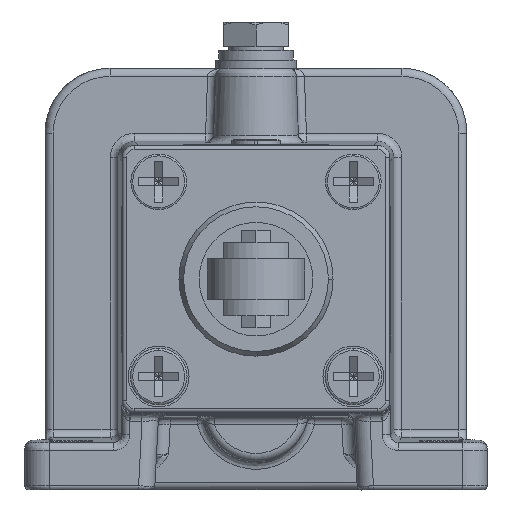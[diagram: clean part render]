
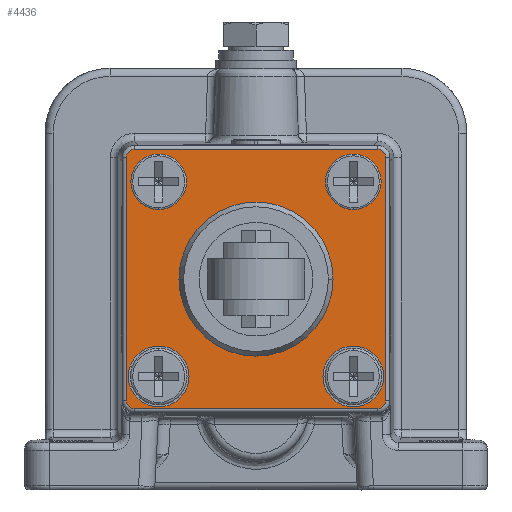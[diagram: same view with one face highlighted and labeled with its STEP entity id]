
A CAD part, left-side view. The second image highlights one B-rep face of the part: STEP entity #4436.
In plain terms, the highlighted planar face has unit normal (-1, 0, 0).
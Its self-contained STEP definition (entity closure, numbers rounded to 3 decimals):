
#1562=CARTESIAN_POINT('',(-70.603,-12.,8.575));
#1563=VERTEX_POINT('',#1562);
#1570=CARTESIAN_POINT('',(-70.603,-12.,15.425));
#1571=VERTEX_POINT('',#1570);
#1572=CARTESIAN_POINT('',(-70.603,-12.,12.));
#1573=DIRECTION('',(1.0,0.0,0.0));
#1574=DIRECTION('',(0.0,0.0,1.0));
#1575=AXIS2_PLACEMENT_3D('',#1572,#1573,#1574);
#1576=CIRCLE('',#1575,3.425);
#1577=EDGE_CURVE('',#1571,#1563,#1576,.T.);
#3075=CARTESIAN_POINT('',(-70.603,12.,8.575));
#3076=VERTEX_POINT('',#3075);
#3083=CARTESIAN_POINT('',(-70.603,12.,15.425));
#3084=VERTEX_POINT('',#3083);
#3085=CARTESIAN_POINT('',(-70.603,12.,12.));
#3086=DIRECTION('',(-1.0,0.0,0.0));
#3087=DIRECTION('',(0.0,0.0,-1.0));
#3088=AXIS2_PLACEMENT_3D('',#3085,#3086,#3087);
#3089=CIRCLE('',#3088,3.425);
#3090=EDGE_CURVE('',#3076,#3084,#3089,.T.);
#4068=CARTESIAN_POINT('',(-70.603,16.,-15.));
#4069=VERTEX_POINT('',#4068);
#4077=CARTESIAN_POINT('',(-70.603,16.,15.));
#4078=VERTEX_POINT('',#4077);
#4079=CARTESIAN_POINT('',(-70.603,16.,-15.));
#4080=DIRECTION('',(0.0,0.0,1.0));
#4081=VECTOR('',#4080,30.0);
#4082=LINE('',#4079,#4081);
#4083=EDGE_CURVE('',#4069,#4078,#4082,.T.);
#4102=CARTESIAN_POINT('',(-70.603,15.,16.));
#4103=VERTEX_POINT('',#4102);
#4104=CARTESIAN_POINT('',(-70.603,15.,15.));
#4105=DIRECTION('',(1.0,0.0,0.0));
#4106=DIRECTION('',(0.0,1.0,0.0));
#4107=AXIS2_PLACEMENT_3D('',#4104,#4105,#4106);
#4108=CIRCLE('',#4107,1.);
#4109=EDGE_CURVE('',#4078,#4103,#4108,.T.);
#4281=CARTESIAN_POINT('',(-70.603,-12.,-8.25));
#4282=VERTEX_POINT('',#4281);
#4290=CARTESIAN_POINT('',(-70.603,-12.,-15.75));
#4291=VERTEX_POINT('',#4290);
#4298=CARTESIAN_POINT('',(-70.603,-12.,-12.));
#4299=DIRECTION('',(1.0,0.0,0.0));
#4300=DIRECTION('',(0.0,0.0,1.0));
#4301=AXIS2_PLACEMENT_3D('',#4298,#4299,#4300);
#4302=CIRCLE('',#4301,3.75);
#4303=EDGE_CURVE('',#4282,#4291,#4302,.T.);
#4308=CARTESIAN_POINT('',(-70.603,16.5,16.5));
#4309=DIRECTION('',(-1.0,0.0,0.0));
#4310=DIRECTION('',(0.0,1.0,0.0));
#4311=AXIS2_PLACEMENT_3D('',#4308,#4309,#4310);
#4312=PLANE('',#4311);
#4313=ORIENTED_EDGE('',*,*,#4083,.F.);
#4314=CARTESIAN_POINT('',(-70.603,15.,-16.));
#4315=VERTEX_POINT('',#4314);
#4316=CARTESIAN_POINT('',(-70.603,15.,-15.));
#4317=DIRECTION('',(1.0,0.0,0.0));
#4318=DIRECTION('',(0.0,0.0,-1.0));
#4319=AXIS2_PLACEMENT_3D('',#4316,#4317,#4318);
#4320=CIRCLE('',#4319,1.);
#4321=EDGE_CURVE('',#4315,#4069,#4320,.T.);
#4322=ORIENTED_EDGE('',*,*,#4321,.F.);
#4323=CARTESIAN_POINT('',(-70.603,-15.,-16.));
#4324=VERTEX_POINT('',#4323);
#4325=CARTESIAN_POINT('',(-70.603,-15.,-16.));
#4326=DIRECTION('',(0.0,1.0,0.0));
#4327=VECTOR('',#4326,30.0);
#4328=LINE('',#4325,#4327);
#4329=EDGE_CURVE('',#4324,#4315,#4328,.T.);
#4330=ORIENTED_EDGE('',*,*,#4329,.F.);
#4331=CARTESIAN_POINT('',(-70.603,-16.,-15.));
#4332=VERTEX_POINT('',#4331);
#4333=CARTESIAN_POINT('',(-70.603,-15.,-15.));
#4334=DIRECTION('',(1.0,0.0,0.0));
#4335=DIRECTION('',(0.0,-1.0,0.0));
#4336=AXIS2_PLACEMENT_3D('',#4333,#4334,#4335);
#4337=CIRCLE('',#4336,1.);
#4338=EDGE_CURVE('',#4332,#4324,#4337,.T.);
#4339=ORIENTED_EDGE('',*,*,#4338,.F.);
#4340=CARTESIAN_POINT('',(-70.603,-16.,15.));
#4341=VERTEX_POINT('',#4340);
#4342=CARTESIAN_POINT('',(-70.603,-16.,15.));
#4343=DIRECTION('',(0.0,0.0,-1.0));
#4344=VECTOR('',#4343,30.0);
#4345=LINE('',#4342,#4344);
#4346=EDGE_CURVE('',#4341,#4332,#4345,.T.);
#4347=ORIENTED_EDGE('',*,*,#4346,.F.);
#4348=CARTESIAN_POINT('',(-70.603,-15.,16.));
#4349=VERTEX_POINT('',#4348);
#4350=CARTESIAN_POINT('',(-70.603,-15.,15.));
#4351=DIRECTION('',(1.0,0.0,0.0));
#4352=DIRECTION('',(0.0,0.0,1.0));
#4353=AXIS2_PLACEMENT_3D('',#4350,#4351,#4352);
#4354=CIRCLE('',#4353,1.);
#4355=EDGE_CURVE('',#4349,#4341,#4354,.T.);
#4356=ORIENTED_EDGE('',*,*,#4355,.F.);
#4357=CARTESIAN_POINT('',(-70.603,15.,16.));
#4358=DIRECTION('',(0.0,-1.0,0.0));
#4359=VECTOR('',#4358,30.0);
#4360=LINE('',#4357,#4359);
#4361=EDGE_CURVE('',#4103,#4349,#4360,.T.);
#4362=ORIENTED_EDGE('',*,*,#4361,.F.);
#4363=ORIENTED_EDGE('',*,*,#4109,.F.);
#4364=EDGE_LOOP('',(#4313,#4322,#4330,#4339,#4347,#4356,#4362,#4363));
#4365=FACE_OUTER_BOUND('',#4364,.T.);
#4366=CARTESIAN_POINT('',(-70.603,-12.,-12.));
#4367=DIRECTION('',(1.0,0.0,0.0));
#4368=DIRECTION('',(0.0,0.0,-1.0));
#4369=AXIS2_PLACEMENT_3D('',#4366,#4367,#4368);
#4370=CIRCLE('',#4369,3.75);
#4371=EDGE_CURVE('',#4291,#4282,#4370,.T.);
#4372=ORIENTED_EDGE('',*,*,#4371,.T.);
#4373=ORIENTED_EDGE('',*,*,#4303,.T.);
#4374=EDGE_LOOP('',(#4372,#4373));
#4375=FACE_BOUND('',#4374,.T.);
#4376=ORIENTED_EDGE('',*,*,#1577,.T.);
#4377=CARTESIAN_POINT('',(-70.603,-12.,12.));
#4378=DIRECTION('',(1.0,0.0,0.0));
#4379=DIRECTION('',(0.0,0.0,-1.0));
#4380=AXIS2_PLACEMENT_3D('',#4377,#4378,#4379);
#4381=CIRCLE('',#4380,3.425);
#4382=EDGE_CURVE('',#1563,#1571,#4381,.T.);
#4383=ORIENTED_EDGE('',*,*,#4382,.T.);
#4384=EDGE_LOOP('',(#4376,#4383));
#4385=FACE_BOUND('',#4384,.T.);
#4386=CARTESIAN_POINT('',(-70.603,12.,-15.75));
#4387=VERTEX_POINT('',#4386);
#4388=CARTESIAN_POINT('',(-70.603,12.,-8.25));
#4389=VERTEX_POINT('',#4388);
#4390=CARTESIAN_POINT('',(-70.603,12.,-12.));
#4391=DIRECTION('',(-1.0,0.0,0.0));
#4392=DIRECTION('',(0.0,0.0,-1.0));
#4393=AXIS2_PLACEMENT_3D('',#4390,#4391,#4392);
#4394=CIRCLE('',#4393,3.75);
#4395=EDGE_CURVE('',#4387,#4389,#4394,.T.);
#4396=ORIENTED_EDGE('',*,*,#4395,.F.);
#4397=CARTESIAN_POINT('',(-70.603,12.,-12.));
#4398=DIRECTION('',(-1.0,0.0,0.0));
#4399=DIRECTION('',(0.0,0.0,1.0));
#4400=AXIS2_PLACEMENT_3D('',#4397,#4398,#4399);
#4401=CIRCLE('',#4400,3.75);
#4402=EDGE_CURVE('',#4389,#4387,#4401,.T.);
#4403=ORIENTED_EDGE('',*,*,#4402,.F.);
#4404=EDGE_LOOP('',(#4396,#4403));
#4405=FACE_BOUND('',#4404,.T.);
#4406=CARTESIAN_POINT('',(-70.603,12.,12.));
#4407=DIRECTION('',(-1.0,0.0,0.0));
#4408=DIRECTION('',(0.0,0.0,1.0));
#4409=AXIS2_PLACEMENT_3D('',#4406,#4407,#4408);
#4410=CIRCLE('',#4409,3.425);
#4411=EDGE_CURVE('',#3084,#3076,#4410,.T.);
#4412=ORIENTED_EDGE('',*,*,#4411,.F.);
#4413=ORIENTED_EDGE('',*,*,#3090,.F.);
#4414=EDGE_LOOP('',(#4412,#4413));
#4415=FACE_BOUND('',#4414,.T.);
#4416=CARTESIAN_POINT('',(-70.603,9.5,0.));
#4417=VERTEX_POINT('',#4416);
#4418=CARTESIAN_POINT('',(-70.603,-9.5,0.));
#4419=VERTEX_POINT('',#4418);
#4420=CARTESIAN_POINT('',(-70.603,0.,0.));
#4421=DIRECTION('',(1.0,0.0,0.0));
#4422=DIRECTION('',(0.0,1.0,0.0));
#4423=AXIS2_PLACEMENT_3D('',#4420,#4421,#4422);
#4424=CIRCLE('',#4423,9.5);
#4425=EDGE_CURVE('',#4417,#4419,#4424,.T.);
#4426=ORIENTED_EDGE('',*,*,#4425,.T.);
#4427=CARTESIAN_POINT('',(-70.603,0.,0.));
#4428=DIRECTION('',(1.0,0.0,0.0));
#4429=DIRECTION('',(0.0,-1.0,0.0));
#4430=AXIS2_PLACEMENT_3D('',#4427,#4428,#4429);
#4431=CIRCLE('',#4430,9.5);
#4432=EDGE_CURVE('',#4419,#4417,#4431,.T.);
#4433=ORIENTED_EDGE('',*,*,#4432,.T.);
#4434=EDGE_LOOP('',(#4426,#4433));
#4435=FACE_BOUND('',#4434,.T.);
#4436=ADVANCED_FACE('',(#4365,#4375,#4385,#4405,#4415,#4435),#4312,.T.);
